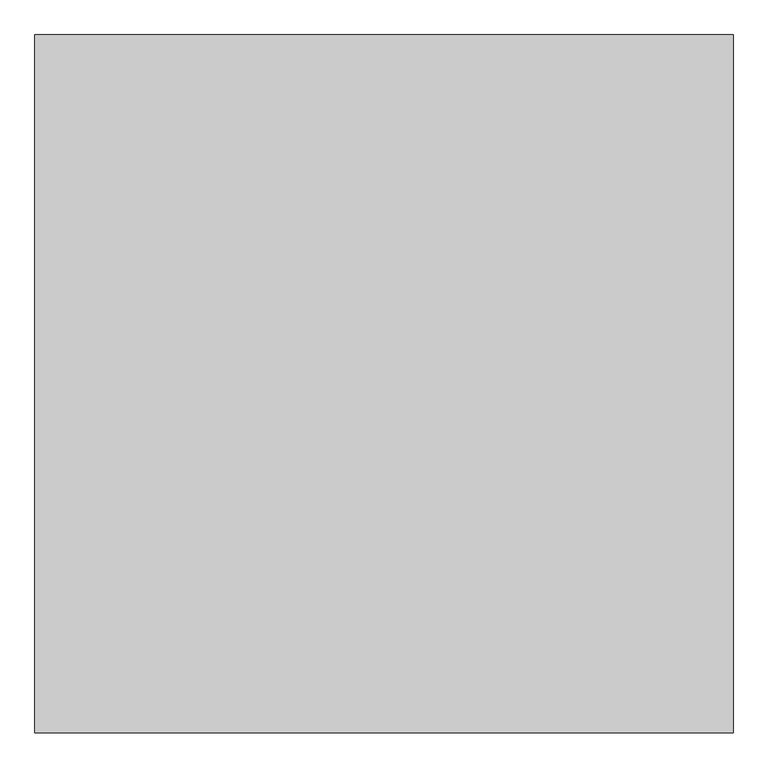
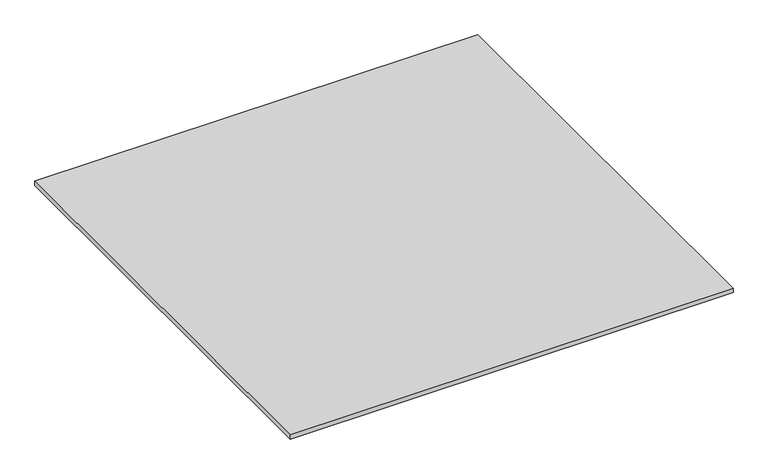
"""IFC4 building model written with IfcOpenShell, lengths in millimetres: proxy geometry, MODELO3D_PLAFON_HYDRA 3.3dm."""

from ifc_helpers import new_model, si_unit, origin, origin_with_axes, place, context, project, spatial, polyline, outline, extrude, source, transform, mapped, element, save


def generic_models_2d690f92(model_context):
    return source(origin(), model_context, "Body", "SweptSolid", [
        extrude(outline(polyline([(-1990.7030971, 336.632562), (-1990.7030971, 1536.632562), (-790.7030971, 1536.632562), (-790.7030971, 336.632562), (-1990.7030971, 336.632562)])), origin_with_axes(), (0.0, 0.0, 1.0), 12.0),
    ])


if __name__ == "__main__":
    model = new_model("IFC4")
    model_context = context("Model", 3, world=origin())
    ifc_project = project(units=[si_unit("LENGTHUNIT", "METRE", prefix="MILLI")], contexts=[model_context])
    site = spatial("IfcSite", under=ifc_project)
    building = spatial("IfcBuilding", under=site)
    placement = place(None, origin())
    generic_models_shape = generic_models_2d690f92(model_context)
    element("IfcBuildingElementProxy", 1, Name="MODELO3D_PLAFON_HYDRA 3.3dm", ObjectType="MODELO3D_PLAFON_HYDRA 3.3dm", at=placement, inside=building, context=model_context, shape_type="MappedRepresentation", body=[
        mapped(generic_models_shape, transform((0.0, 0.0, 0.0), x_axis=(1.0, 0.0, 0.0), y_axis=(0.0, 1.0, 0.0), z_axis=(0.0, 0.0, 1.0))),
    ])
    save(model, "model.ifc")
